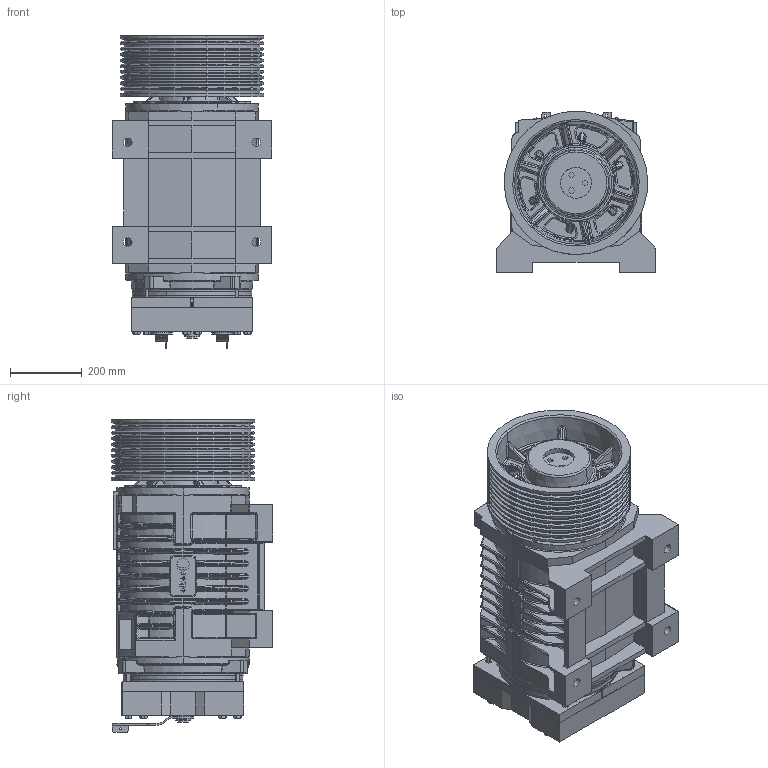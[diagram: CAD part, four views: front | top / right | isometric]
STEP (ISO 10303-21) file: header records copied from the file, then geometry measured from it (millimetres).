
FILE_DESCRIPTION (( 'STEP AP214' ), '1' );
FILE_NAME ('QS640300100.STEP', '2026-01-13T14:39:22', ( '' ), ( '' ), 'SwSTEP 2.0', 'SolidWorks 2023', '' );
FILE_SCHEMA (( 'AUTOMOTIVE_DESIGN' ));
Length unit declared in the file: millimetre
Products named in the file (1): QS640300100
Bounding box: 445.91 x 449.87 x 872.27 mm (x, y, z)
Topology: 63 solids, 66 shells, 4342 faces, 10270 edges, 6094 vertices
Faces by surface type: cylinder 1357, plane 1092, bspline 739, cone 467, sphere 367, torus 320
Entity records: 152568 total; most frequent: CARTESIAN_POINT 57262, ORIENTED_EDGE 20158, DIRECTION 19674, EDGE_CURVE 10079, AXIS2_PLACEMENT_3D 8081, VERTEX_POINT 6056, EDGE_LOOP 4709, CIRCLE 4477
